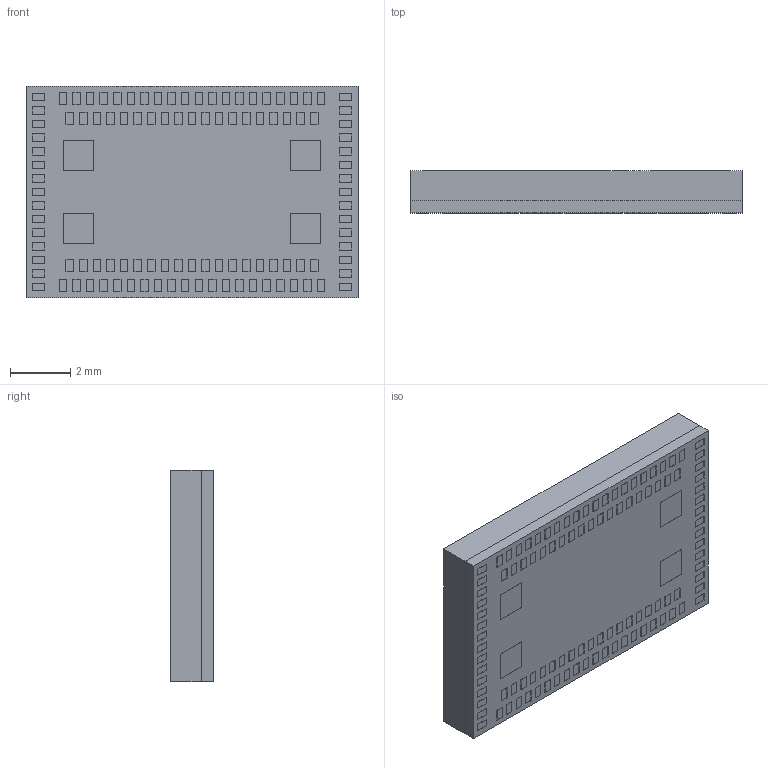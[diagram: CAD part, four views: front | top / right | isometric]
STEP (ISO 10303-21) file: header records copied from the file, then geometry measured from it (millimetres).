
FILE_DESCRIPTION (( 'STEP AP214' ), '1' );
FILE_NAME ('453-00396.STEP', '2026-05-25T09:33:32', ( '' ), ( '' ), 'SwSTEP 2.0', 'SolidWorks 2025', '' );
FILE_SCHEMA (( 'AUTOMOTIVE_DESIGN' ));
Length unit declared in the file: millimetre
Products named in the file (1): 453-00396
Bounding box: 11 x 1.4 x 7 mm (x, y, z)
Surface area: 477.1 mm2
Topology: 131 solids, 131 shells, 3985 faces, 9378 edges, 5968 vertices
Faces by surface type: plane 2898, cylinder 489, bspline 332, torus 228, cone 38
Entity records: 170651 total; most frequent: CARTESIAN_POINT 35819, ORIENTED_EDGE 18756, DIRECTION 17148, EDGE_CURVE 9378, VECTOR 7214, LINE 7214, VERTEX_POINT 5968, AXIS2_PLACEMENT_3D 4967
